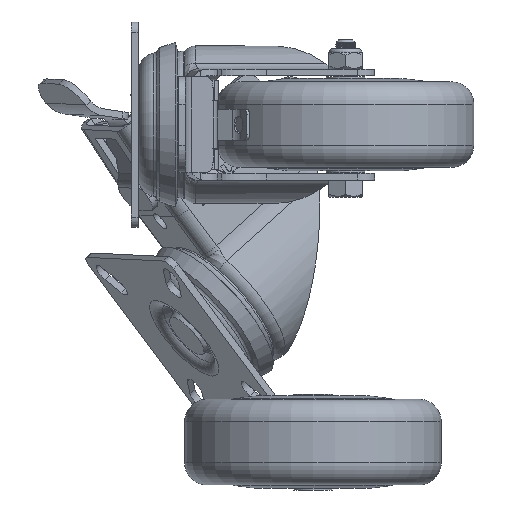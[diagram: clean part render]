
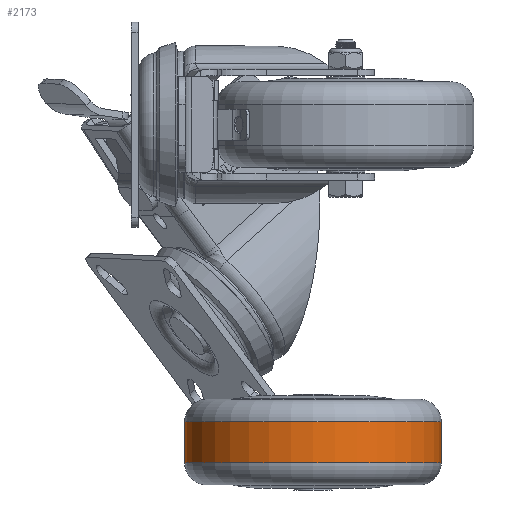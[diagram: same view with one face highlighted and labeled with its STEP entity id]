
A CAD part, left-side view. The second image highlights one B-rep face of the part: STEP entity #2173.
In plain terms, the highlighted cylindrical face has radius 37.5 mm (diameter 75 mm), a full revolution.
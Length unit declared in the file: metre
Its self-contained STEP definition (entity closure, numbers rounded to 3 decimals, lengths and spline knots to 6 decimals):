
#2173=ADVANCED_FACE('',(#5360,#5361),#5362,.T.);
#5360=FACE_OUTER_BOUND('',#9171,.T.);
#5361=FACE_OUTER_BOUND('',#9172,.T.);
#5362=CYLINDRICAL_SURFACE('',#9173,0.0375);
#9171=EDGE_LOOP('',(#23002));
#9172=EDGE_LOOP('',(#23003));
#9173=AXIS2_PLACEMENT_3D('',#23004,#23005,#23006);
#23002=ORIENTED_EDGE('',*,*,#27768,.F.);
#23003=ORIENTED_EDGE('',*,*,#27767,.F.);
#23004=CARTESIAN_POINT('',(-0.01375,0.0,0.0));
#23005=DIRECTION('',(1.0,-0.0,-0.0));
#23006=DIRECTION('',(0.0,0.0,1.0));
#27767=EDGE_CURVE('',#34640,#34640,#34641,.T.);
#27768=EDGE_CURVE('',#34642,#34642,#34643,.T.);
#34640=VERTEX_POINT('',#45726);
#34641=CIRCLE('',#45727,0.0375);
#34642=VERTEX_POINT('',#45728);
#34643=CIRCLE('',#45729,0.0375);
#45726=CARTESIAN_POINT('',(-0.006,0.0,-0.0375));
#45727=AXIS2_PLACEMENT_3D('',#53682,#53683,#53684);
#45728=CARTESIAN_POINT('',(0.006,0.0,-0.0375));
#45729=AXIS2_PLACEMENT_3D('',#53685,#53686,#53687);
#53682=CARTESIAN_POINT('',(-0.006,0.0,0.0));
#53683=DIRECTION('',(-1.0,0.0,0.0));
#53684=DIRECTION('',(0.0,0.0,-1.0));
#53685=CARTESIAN_POINT('',(0.006,0.0,0.0));
#53686=DIRECTION('',(1.0,0.0,0.0));
#53687=DIRECTION('',(0.0,0.0,-1.0));
